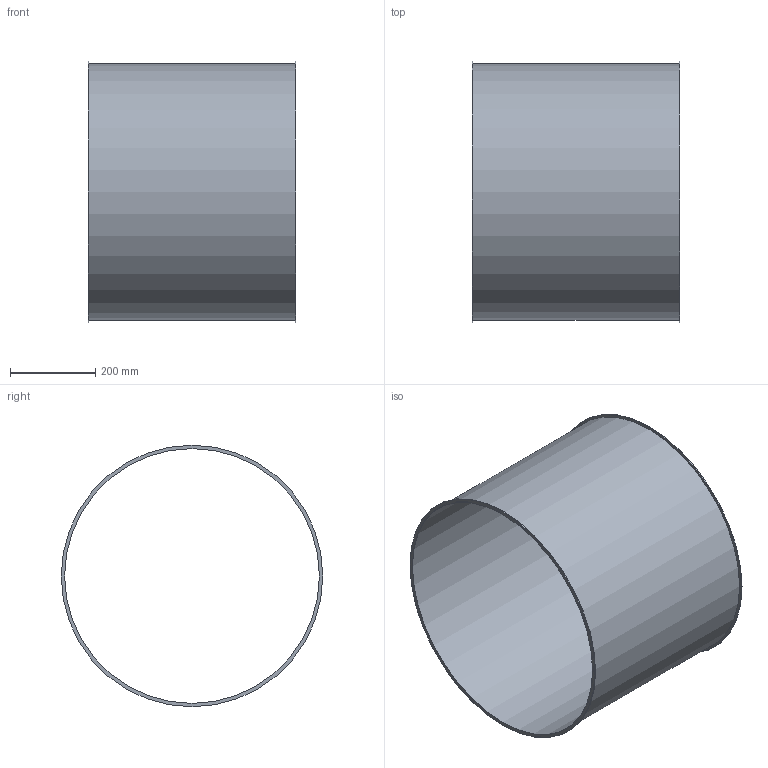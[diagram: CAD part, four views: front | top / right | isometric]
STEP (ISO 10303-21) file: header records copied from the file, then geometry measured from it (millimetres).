
FILE_DESCRIPTION((''),'2;1');
FILE_NAME('U:\Wolfgang\Marcel-3D\fertig\Kapitel 1\6021003.stp','2010-05-31T12:40:45',('TK2'),(''),'Autodesk Inventor 2010','Autodesk Inventor 2010','');
FILE_SCHEMA(('AUTOMOTIVE_DESIGN { 1 0 10303 214 1 1 1 1 }'));
Length unit declared in the file: millimetre
Products named in the file (1): 6021003
Bounding box: 488 x 614 x 614 mm (x, y, z)
Volume: 1885558.8 mm3; surface area: 1893249.4 mm2
Topology: 1 solids, 1 shells, 8 faces, 12 edges, 8 vertices
Faces by surface type: cylinder 4, plane 4
Full cylindrical faces by diameter (mm): 598 x1, 602 x1, 614 x2
Entity records: 194 total; most frequent: DIRECTION 34, CARTESIAN_POINT 25, AXIS2_PLACEMENT_3D 17, ORIENTED_EDGE 16, EDGE_LOOP 16, VERTEX_POINT 8, CIRCLE 8, EDGE_CURVE 8
